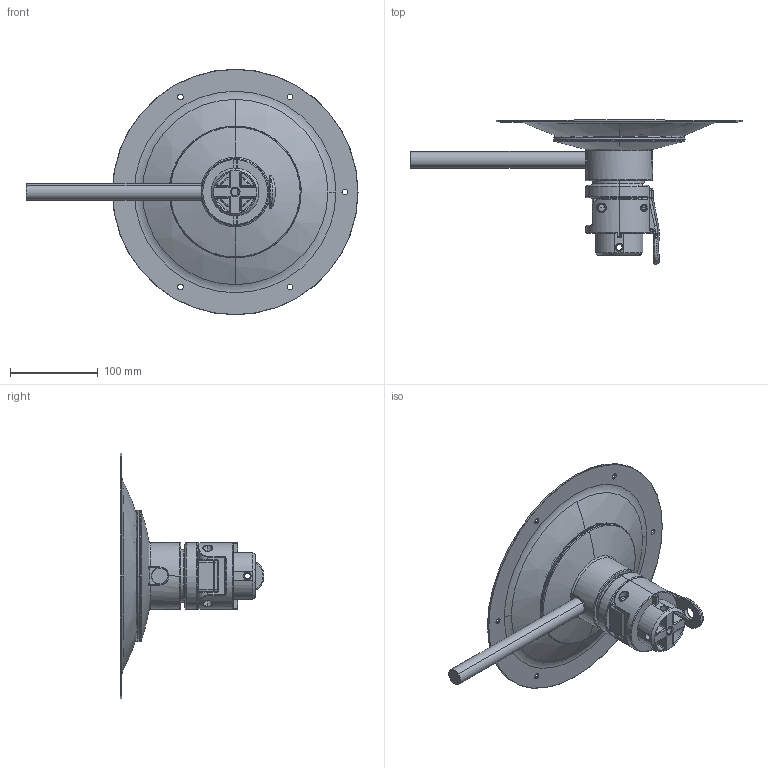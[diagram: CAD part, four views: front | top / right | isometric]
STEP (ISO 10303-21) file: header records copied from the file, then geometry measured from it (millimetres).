
FILE_DESCRIPTION (( 'STEP AP214' ), '1' );
FILE_NAME ('B135-LVR-B公開.STEP', '2022-05-23T03:09:44', ( '' ), ( '' ), 'SwSTEP 2.0', 'SolidWorks 2019', '' );
FILE_SCHEMA (( 'AUTOMOTIVE_DESIGN' ));
Length unit declared in the file: millimetre
Products named in the file (19): Fastener; LinkPin; HingePin; Lever; B135-LVR-B公開; Sim; ばね座金M8; 六角ボルトM8x20; ShaftBaseF; HingeBaseF; LockNutCover; TablePlate_SUS; 平座金M8x24; LockNut_B; UpperPlate; M30Bolt; SimCover; FastenerPin; FastenerLink
Assembly tree (18 placements, depth 2):
  B135-LVR-B公開
    HingeBaseF
    ShaftBaseF
    M30Bolt
    LockNut_B
    UpperPlate
    SimCover
    Sim
    TablePlate_SUS
    HingePin
    LockNutCover
    Lever
    Fastener
    FastenerLink
    FastenerPin
    LinkPin
    六角ボルトM8x20
    ばね座金M8
    平座金M8x24
Bounding box: 378.5 x 163.96 x 280 mm (x, y, z)
Volume: 708569.8 mm3; surface area: 411905.8 mm2
Topology: 18 solids, 18 shells, 1625 faces, 3952 edges, 2287 vertices
Faces by surface type: cylinder 689, torus 316, plane 282, bspline 141, sphere 128, cone 69
Entity records: 63654 total; most frequent: CARTESIAN_POINT 25811, DIRECTION 8305, ORIENTED_EDGE 7686, EDGE_CURVE 3843, AXIS2_PLACEMENT_3D 3508, VERTEX_POINT 2277, CIRCLE 2003, EDGE_LOOP 1708
